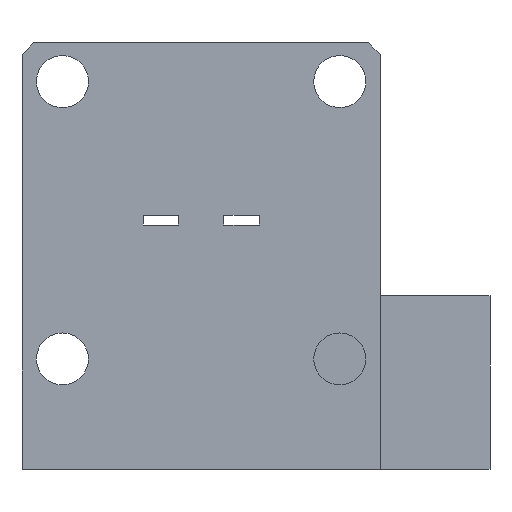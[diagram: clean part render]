
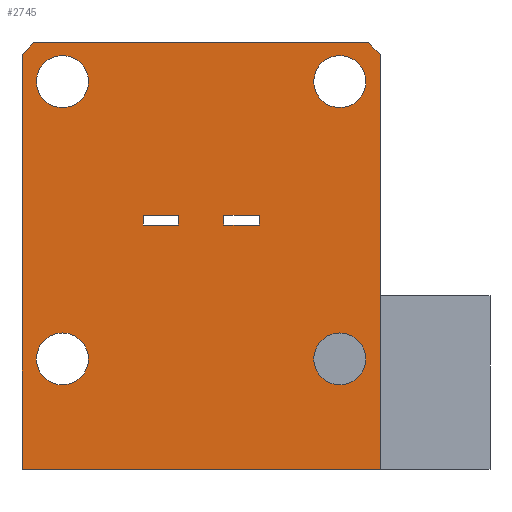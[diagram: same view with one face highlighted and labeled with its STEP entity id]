
A CAD part, left-side view. The second image highlights one B-rep face of the part: STEP entity #2745.
In plain terms, the highlighted planar face has unit normal (-1, 0, 0).
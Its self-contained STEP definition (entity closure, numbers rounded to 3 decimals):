
#2266=AXIS2_PLACEMENT_3D('Circle Axis2P3D',#2264,#2265,$) ;
#2278=AXIS2_PLACEMENT_3D('Circle Axis2P3D',#2276,#2277,$) ;
#2318=AXIS2_PLACEMENT_3D('Circle Axis2P3D',#2316,#2317,$) ;
#2330=AXIS2_PLACEMENT_3D('Circle Axis2P3D',#2328,#2329,$) ;
#2370=AXIS2_PLACEMENT_3D('Circle Axis2P3D',#2368,#2369,$) ;
#2382=AXIS2_PLACEMENT_3D('Circle Axis2P3D',#2380,#2381,$) ;
#2422=AXIS2_PLACEMENT_3D('Circle Axis2P3D',#2420,#2421,$) ;
#2434=AXIS2_PLACEMENT_3D('Circle Axis2P3D',#2432,#2433,$) ;
#2695=AXIS2_PLACEMENT_3D('Plane Axis2P3D',#2692,#2693,#2694) ;
#2116=CARTESIAN_POINT('Vertex',(-110.,49.,32.45)) ;
#2130=CARTESIAN_POINT('Vertex',(-110.,51.,30.45)) ;
#2133=CARTESIAN_POINT('Line Origine',(-110.,50.,31.45)) ;
#2152=CARTESIAN_POINT('Line Origine',(-110.,20.,32.45)) ;
#2156=CARTESIAN_POINT('Vertex',(-110.,-9.,32.45)) ;
#2177=CARTESIAN_POINT('Vertex',(-110.,9.95,0.9)) ;
#2191=CARTESIAN_POINT('Vertex',(-110.,16.05,0.9)) ;
#2194=CARTESIAN_POINT('Line Origine',(-110.,13.,0.9)) ;
#2210=CARTESIAN_POINT('Vertex',(-110.,23.95,0.9)) ;
#2226=CARTESIAN_POINT('Vertex',(-110.,30.05,0.9)) ;
#2229=CARTESIAN_POINT('Line Origine',(-110.,27.,0.9)) ;
#2247=CARTESIAN_POINT('Vertex',(-110.,39.5,-22.27)) ;
#2261=CARTESIAN_POINT('Vertex',(-110.,48.5,-22.27)) ;
#2264=CARTESIAN_POINT('Axis2P3D Location',(-110.,44.,-22.27)) ;
#2276=CARTESIAN_POINT('Axis2P3D Location',(-110.,44.,-22.27)) ;
#2299=CARTESIAN_POINT('Vertex',(-110.,-8.5,-22.27)) ;
#2313=CARTESIAN_POINT('Vertex',(-110.,0.5,-22.27)) ;
#2316=CARTESIAN_POINT('Axis2P3D Location',(-110.,-4.,-22.27)) ;
#2328=CARTESIAN_POINT('Axis2P3D Location',(-110.,-4.,-22.27)) ;
#2351=CARTESIAN_POINT('Vertex',(-110.,39.5,25.73)) ;
#2365=CARTESIAN_POINT('Vertex',(-110.,48.5,25.73)) ;
#2368=CARTESIAN_POINT('Axis2P3D Location',(-110.,44.,25.73)) ;
#2380=CARTESIAN_POINT('Axis2P3D Location',(-110.,44.,25.73)) ;
#2403=CARTESIAN_POINT('Vertex',(-110.,-8.5,25.73)) ;
#2417=CARTESIAN_POINT('Vertex',(-110.,0.5,25.73)) ;
#2420=CARTESIAN_POINT('Axis2P3D Location',(-110.,-4.,25.73)) ;
#2432=CARTESIAN_POINT('Axis2P3D Location',(-110.,-4.,25.73)) ;
#2455=CARTESIAN_POINT('Vertex',(-110.,23.95,2.6)) ;
#2463=CARTESIAN_POINT('Line Origine',(-110.,23.95,1.75)) ;
#2475=CARTESIAN_POINT('Line Origine',(-110.,30.05,1.75)) ;
#2479=CARTESIAN_POINT('Vertex',(-110.,30.05,2.6)) ;
#2501=CARTESIAN_POINT('Line Origine',(-110.,20.,2.6)) ;
#2505=CARTESIAN_POINT('Vertex',(-110.,16.05,2.6)) ;
#2507=CARTESIAN_POINT('Vertex',(-110.,9.95,2.6)) ;
#2536=CARTESIAN_POINT('Line Origine',(-110.,20.,2.6)) ;
#2558=CARTESIAN_POINT('Line Origine',(-110.,9.95,1.75)) ;
#2570=CARTESIAN_POINT('Line Origine',(-110.,16.05,1.75)) ;
#2603=CARTESIAN_POINT('Vertex',(-110.,51.,-41.35)) ;
#2606=CARTESIAN_POINT('Line Origine',(-110.,51.,-4.45)) ;
#2666=CARTESIAN_POINT('Line Origine',(-110.,-10.,31.45)) ;
#2670=CARTESIAN_POINT('Vertex',(-110.,-11.,30.45)) ;
#2692=CARTESIAN_POINT('Axis2P3D Location',(-110.,0.,0.)) ;
#2697=CARTESIAN_POINT('Line Origine',(-110.,20.,-41.35)) ;
#2701=CARTESIAN_POINT('Vertex',(-110.,-11.,-41.35)) ;
#2704=CARTESIAN_POINT('Line Origine',(-110.,-11.,-4.45)) ;
#2134=DIRECTION('Vector Direction',(0.,-0.707,0.707)) ;
#2153=DIRECTION('Vector Direction',(0.,-1.,0.)) ;
#2195=DIRECTION('Vector Direction',(0.,-1.,0.)) ;
#2230=DIRECTION('Vector Direction',(0.,-1.,0.)) ;
#2265=DIRECTION('Axis2P3D Direction',(1.,0.,0.)) ;
#2277=DIRECTION('Axis2P3D Direction',(1.,0.,0.)) ;
#2317=DIRECTION('Axis2P3D Direction',(1.,0.,0.)) ;
#2329=DIRECTION('Axis2P3D Direction',(1.,0.,0.)) ;
#2369=DIRECTION('Axis2P3D Direction',(1.,0.,0.)) ;
#2381=DIRECTION('Axis2P3D Direction',(1.,0.,0.)) ;
#2421=DIRECTION('Axis2P3D Direction',(1.,0.,0.)) ;
#2433=DIRECTION('Axis2P3D Direction',(1.,0.,0.)) ;
#2464=DIRECTION('Vector Direction',(0.,0.,1.)) ;
#2476=DIRECTION('Vector Direction',(0.,0.,1.)) ;
#2502=DIRECTION('Vector Direction',(0.,-1.,0.)) ;
#2537=DIRECTION('Vector Direction',(0.,-1.,0.)) ;
#2559=DIRECTION('Vector Direction',(0.,0.,-1.)) ;
#2571=DIRECTION('Vector Direction',(0.,0.,-1.)) ;
#2607=DIRECTION('Vector Direction',(0.,0.,1.)) ;
#2667=DIRECTION('Vector Direction',(0.,0.707,0.707)) ;
#2693=DIRECTION('Axis2P3D Direction',(1.,0.,0.)) ;
#2694=DIRECTION('Axis2P3D XDirection',(0.,1.,0.)) ;
#2698=DIRECTION('Vector Direction',(0.,1.,0.)) ;
#2705=DIRECTION('Vector Direction',(0.,0.,1.)) ;
#2135=VECTOR('Line Direction',#2134,1.) ;
#2154=VECTOR('Line Direction',#2153,1.) ;
#2196=VECTOR('Line Direction',#2195,1.) ;
#2231=VECTOR('Line Direction',#2230,1.) ;
#2465=VECTOR('Line Direction',#2464,1.) ;
#2477=VECTOR('Line Direction',#2476,1.) ;
#2503=VECTOR('Line Direction',#2502,1.) ;
#2538=VECTOR('Line Direction',#2537,1.) ;
#2560=VECTOR('Line Direction',#2559,1.) ;
#2572=VECTOR('Line Direction',#2571,1.) ;
#2608=VECTOR('Line Direction',#2607,1.) ;
#2668=VECTOR('Line Direction',#2667,1.) ;
#2699=VECTOR('Line Direction',#2698,1.) ;
#2706=VECTOR('Line Direction',#2705,1.) ;
#2710=ORIENTED_EDGE('',*,*,#2703,.F.) ;
#2711=ORIENTED_EDGE('',*,*,#2708,.F.) ;
#2712=ORIENTED_EDGE('',*,*,#2672,.T.) ;
#2713=ORIENTED_EDGE('',*,*,#2158,.F.) ;
#2714=ORIENTED_EDGE('',*,*,#2137,.F.) ;
#2715=ORIENTED_EDGE('',*,*,#2610,.F.) ;
#2718=ORIENTED_EDGE('',*,*,#2562,.T.) ;
#2719=ORIENTED_EDGE('',*,*,#2198,.F.) ;
#2720=ORIENTED_EDGE('',*,*,#2574,.F.) ;
#2721=ORIENTED_EDGE('',*,*,#2509,.T.) ;
#2724=ORIENTED_EDGE('',*,*,#2233,.F.) ;
#2725=ORIENTED_EDGE('',*,*,#2481,.T.) ;
#2726=ORIENTED_EDGE('',*,*,#2540,.T.) ;
#2727=ORIENTED_EDGE('',*,*,#2467,.F.) ;
#2730=ORIENTED_EDGE('',*,*,#2280,.F.) ;
#2731=ORIENTED_EDGE('',*,*,#2268,.F.) ;
#2734=ORIENTED_EDGE('',*,*,#2332,.F.) ;
#2735=ORIENTED_EDGE('',*,*,#2320,.F.) ;
#2738=ORIENTED_EDGE('',*,*,#2384,.F.) ;
#2739=ORIENTED_EDGE('',*,*,#2372,.F.) ;
#2742=ORIENTED_EDGE('',*,*,#2436,.F.) ;
#2743=ORIENTED_EDGE('',*,*,#2424,.F.) ;
#2722=FACE_BOUND('',#2717,.T.) ;
#2728=FACE_BOUND('',#2723,.T.) ;
#2732=FACE_BOUND('',#2729,.T.) ;
#2736=FACE_BOUND('',#2733,.T.) ;
#2740=FACE_BOUND('',#2737,.T.) ;
#2744=FACE_BOUND('',#2741,.T.) ;
#2745=ADVANCED_FACE('\X2\96F64EF651E04F554F53\X0\',(#2716,#2722,#2728,#2732,#2736,#2740,#2744),#2696,.F.) ;
#2267=CIRCLE('generated circle',#2266,4.5) ;
#2279=CIRCLE('generated circle',#2278,4.5) ;
#2319=CIRCLE('generated circle',#2318,4.5) ;
#2331=CIRCLE('generated circle',#2330,4.5) ;
#2371=CIRCLE('generated circle',#2370,4.5) ;
#2383=CIRCLE('generated circle',#2382,4.5) ;
#2423=CIRCLE('generated circle',#2422,4.5) ;
#2435=CIRCLE('generated circle',#2434,4.5) ;
#2137=EDGE_CURVE('',#2131,#2117,#2136,.T.) ;
#2158=EDGE_CURVE('',#2117,#2157,#2155,.T.) ;
#2198=EDGE_CURVE('',#2192,#2178,#2197,.T.) ;
#2233=EDGE_CURVE('',#2227,#2211,#2232,.T.) ;
#2268=EDGE_CURVE('',#2262,#2248,#2267,.F.) ;
#2280=EDGE_CURVE('',#2248,#2262,#2279,.F.) ;
#2320=EDGE_CURVE('',#2314,#2300,#2319,.F.) ;
#2332=EDGE_CURVE('',#2300,#2314,#2331,.F.) ;
#2372=EDGE_CURVE('',#2366,#2352,#2371,.F.) ;
#2384=EDGE_CURVE('',#2352,#2366,#2383,.F.) ;
#2424=EDGE_CURVE('',#2418,#2404,#2423,.F.) ;
#2436=EDGE_CURVE('',#2404,#2418,#2435,.F.) ;
#2467=EDGE_CURVE('',#2211,#2456,#2466,.T.) ;
#2481=EDGE_CURVE('',#2227,#2480,#2478,.T.) ;
#2509=EDGE_CURVE('',#2506,#2508,#2504,.T.) ;
#2540=EDGE_CURVE('',#2480,#2456,#2539,.T.) ;
#2562=EDGE_CURVE('',#2508,#2178,#2561,.T.) ;
#2574=EDGE_CURVE('',#2506,#2192,#2573,.T.) ;
#2610=EDGE_CURVE('',#2604,#2131,#2609,.T.) ;
#2672=EDGE_CURVE('',#2671,#2157,#2669,.T.) ;
#2703=EDGE_CURVE('',#2702,#2604,#2700,.T.) ;
#2708=EDGE_CURVE('',#2671,#2702,#2707,.F.) ;
#2709=EDGE_LOOP('',(#2710,#2711,#2712,#2713,#2714,#2715)) ;
#2717=EDGE_LOOP('',(#2718,#2719,#2720,#2721)) ;
#2723=EDGE_LOOP('',(#2724,#2725,#2726,#2727)) ;
#2729=EDGE_LOOP('',(#2730,#2731)) ;
#2733=EDGE_LOOP('',(#2734,#2735)) ;
#2737=EDGE_LOOP('',(#2738,#2739)) ;
#2741=EDGE_LOOP('',(#2742,#2743)) ;
#2716=FACE_OUTER_BOUND('',#2709,.T.) ;
#2136=LINE('Line',#2133,#2135) ;
#2155=LINE('Line',#2152,#2154) ;
#2197=LINE('Line',#2194,#2196) ;
#2232=LINE('Line',#2229,#2231) ;
#2466=LINE('Line',#2463,#2465) ;
#2478=LINE('Line',#2475,#2477) ;
#2504=LINE('Line',#2501,#2503) ;
#2539=LINE('Line',#2536,#2538) ;
#2561=LINE('Line',#2558,#2560) ;
#2573=LINE('Line',#2570,#2572) ;
#2609=LINE('Line',#2606,#2608) ;
#2669=LINE('Line',#2666,#2668) ;
#2700=LINE('Line',#2697,#2699) ;
#2707=LINE('Line',#2704,#2706) ;
#2696=PLANE('Plane',#2695) ;
#2117=VERTEX_POINT('',#2116) ;
#2131=VERTEX_POINT('',#2130) ;
#2157=VERTEX_POINT('',#2156) ;
#2178=VERTEX_POINT('',#2177) ;
#2192=VERTEX_POINT('',#2191) ;
#2211=VERTEX_POINT('',#2210) ;
#2227=VERTEX_POINT('',#2226) ;
#2248=VERTEX_POINT('',#2247) ;
#2262=VERTEX_POINT('',#2261) ;
#2300=VERTEX_POINT('',#2299) ;
#2314=VERTEX_POINT('',#2313) ;
#2352=VERTEX_POINT('',#2351) ;
#2366=VERTEX_POINT('',#2365) ;
#2404=VERTEX_POINT('',#2403) ;
#2418=VERTEX_POINT('',#2417) ;
#2456=VERTEX_POINT('',#2455) ;
#2480=VERTEX_POINT('',#2479) ;
#2506=VERTEX_POINT('',#2505) ;
#2508=VERTEX_POINT('',#2507) ;
#2604=VERTEX_POINT('',#2603) ;
#2671=VERTEX_POINT('',#2670) ;
#2702=VERTEX_POINT('',#2701) ;
